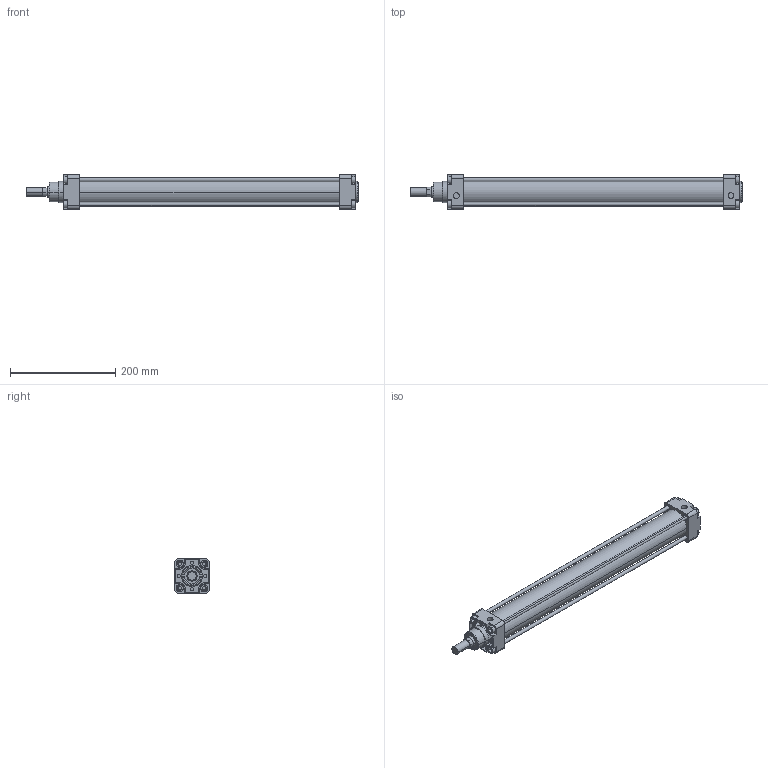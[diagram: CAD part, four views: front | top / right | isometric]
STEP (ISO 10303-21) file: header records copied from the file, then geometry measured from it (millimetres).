
FILE_DESCRIPTION(('CATIA V5 STEP Exchange'),'2;1');
FILE_NAME('D:\stp file for catalog\PNC\50\PNC 50-20-450.stp','2015-10-14T13:05:01+00:00',('none'),('none'),'Version 5-6 Release 2012','CATIA V5 STEP AP203','none');
FILE_SCHEMA(('CONFIG_CONTROL_DESIGN'));
Length unit declared in the file: millimetre
Products named in the file (1): PNC 50-20-450-00
Assembly tree (2 placements, depth 2):
  PNC 50-20-450-00
    #58
    #14116
Bounding box: 631 x 65 x 65 mm (x, y, z)
Volume: 721320.3 mm3; surface area: 317351.7 mm2
Topology: 6 solids, 6 shells, 536 faces, 1334 edges, 870 vertices
Faces by surface type: plane 324, cylinder 168, torus 26, extrusion 16, cone 2
Entity records: 14540 total; most frequent: CARTESIAN_POINT 2873, ORIENTED_EDGE 2668, DIRECTION 1792, EDGE_CURVE 1334, VECTOR 878, VERTEX_POINT 870, LINE 862, AXIS2_PLACEMENT_3D 661
